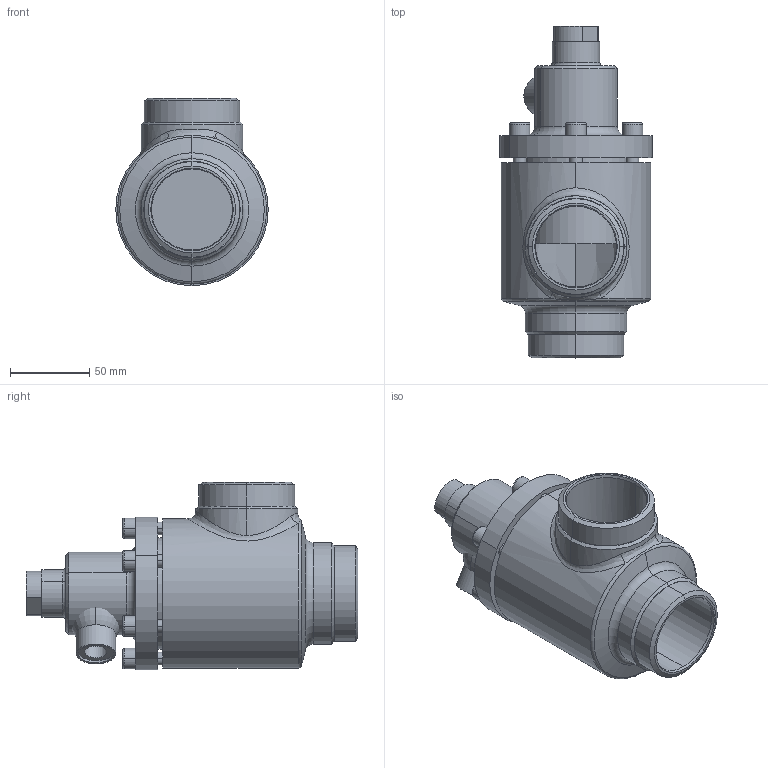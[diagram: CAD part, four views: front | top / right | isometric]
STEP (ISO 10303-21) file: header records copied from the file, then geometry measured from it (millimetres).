
FILE_DESCRIPTION (( 'STEP AP214' ), '1' );
FILE_NAME ('RVD4280xC15-DN50_1-5bar.STEP', '2007-01-10T14:58:37', ( 'Herr Grams' ), ( 'AWP GmbH' ), 'SwSTEP 2.0', 'SolidWorks 2002296', '' );
FILE_SCHEMA (( 'AUTOMOTIVE_DESIGN' ));
Length unit declared in the file: millimetre
Products named in the file (9): RVD4280xC15-DN50_1-5bar; Verschlußschr4270xE15-DN40-50_1-9bar_M12x  62_2+4bar; Gehäuse16400-DN050_Standard; RVD42700E15_Deck+Schr-DN40-50_1-5bar_Standard; Deck-kpl42700E15-DN40-50_1-5bar_Standard; Deckel42700E15-DN40-50_1-5bar_PS40_Standard; Gew-Muffe441_M16x1,5_Standard; Schw-Rd25_DN40-50_Standard; Zylinderschraube-DIN912_M 8x 25
Assembly tree (13 placements, depth 4):
  RVD4280xC15-DN50_1-5bar
    RVD42700E15_Deck+Schr-DN40-50_1-5bar_Standard
      Deck-kpl42700E15-DN40-50_1-5bar_Standard
        Schw-Rd25_DN40-50_Standard
        Gew-Muffe441_M16x1,5_Standard
        Deckel42700E15-DN40-50_1-5bar_PS40_Standard
      Zylinderschraube-DIN912_M 8x 25  x6
    Verschlußschr4270xE15-DN40-50_1-9bar_M12x  62_2+4bar
    Gehäuse16400-DN050_Standard
Bounding box: 96 x 209 x 118 mm (x, y, z)
Volume: 511706.9 mm3; surface area: 149650.8 mm2
Topology: 11 solids, 11 shells, 242 faces, 521 edges, 325 vertices
Faces by surface type: cylinder 89, plane 86, cone 43, torus 22, bspline 2
Entity records: 14555 total; most frequent: CARTESIAN_POINT 10586, DIRECTION 824, ORIENTED_EDGE 658, AXIS2_PLACEMENT_3D 350, EDGE_CURVE 329, VERTEX_POINT 205, EDGE_LOOP 190, CIRCLE 182
